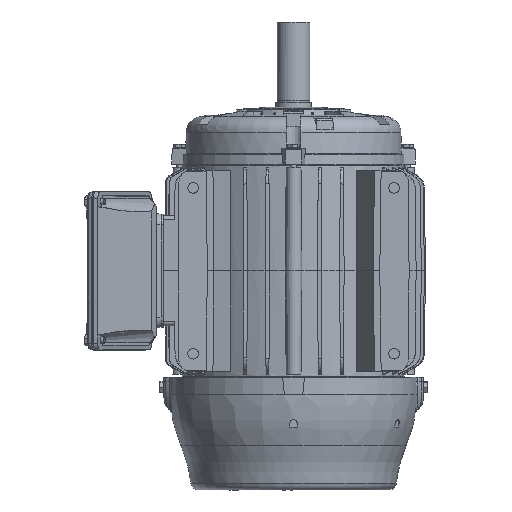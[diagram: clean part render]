
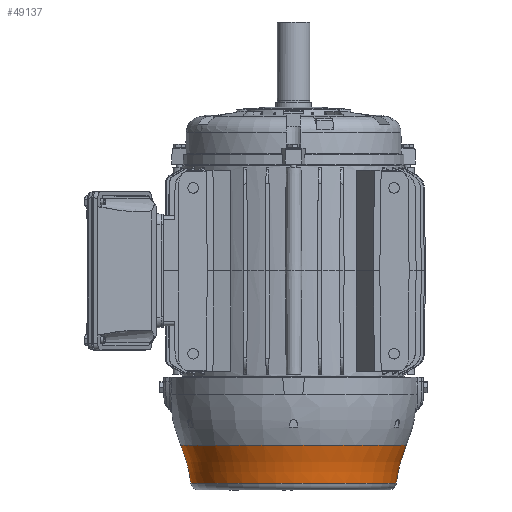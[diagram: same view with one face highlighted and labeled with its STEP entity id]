
A CAD part, front view. The second image highlights one B-rep face of the part: STEP entity #49137.
In plain terms, the highlighted toroidal (fillet/blend) face has major radius 308.616 mm and minor radius 180 mm.
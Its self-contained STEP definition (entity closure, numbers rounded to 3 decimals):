
#395 = CARTESIAN_POINT ( 'NONE',  ( 0., 0., -422.887 ) ) ;
#1150 = ORIENTED_EDGE ( 'NONE', *, *, #8368, .F. ) ;
#2953 = VERTEX_POINT ( 'NONE', #19489 ) ;
#8368 = EDGE_CURVE ( 'NONE', #25487, #25487, #53955, .T. ) ;
#12929 = CARTESIAN_POINT ( 'NONE',  ( 0., 0., -401.205 ) ) ;
#15605 = DIRECTION ( 'NONE',  ( 0., 0., 1. ) ) ;
#18450 = DIRECTION ( 'NONE',  ( 0., 1., 0. ) ) ;
#18921 = DIRECTION ( 'NONE',  ( 0., 1., 0. ) ) ;
#19489 = CARTESIAN_POINT ( 'NONE',  ( 0., 129.927, -401.205 ) ) ;
#19905 = TOROIDAL_SURFACE ( 'NONE', #67168, 308.617, 180. ) ;
#22478 = CIRCLE ( 'NONE', #24079, 129.927 ) ;
#24079 = AXIS2_PLACEMENT_3D ( 'NONE', #12929, #54833, #18921 ) ;
#25138 = EDGE_LOOP ( 'NONE', ( #1150 ) ) ;
#25487 = VERTEX_POINT ( 'NONE', #72219 ) ;
#26819 = AXIS2_PLACEMENT_3D ( 'NONE', #51481, #15605, #57531 ) ;
#36279 = EDGE_LOOP ( 'NONE', ( #48822 ) ) ;
#37668 = FACE_OUTER_BOUND ( 'NONE', #25138, .T. ) ;
#48822 = ORIENTED_EDGE ( 'NONE', *, *, #51688, .T. ) ;
#49137 = ADVANCED_FACE ( 'NONE', ( #67757, #37668 ), #19905, .F. ) ;
#51481 = CARTESIAN_POINT ( 'NONE',  ( 0., 0., -353.599 ) ) ;
#51688 = EDGE_CURVE ( 'NONE', #2953, #2953, #22478, .T. ) ;
#53955 = CIRCLE ( 'NONE', #26819, 142.487 ) ;
#54339 = DIRECTION ( 'NONE',  ( 0., 0., 1. ) ) ;
#54833 = DIRECTION ( 'NONE',  ( 0., 0., 1. ) ) ;
#57531 = DIRECTION ( 'NONE',  ( 0., 1., 0. ) ) ;
#67168 = AXIS2_PLACEMENT_3D ( 'NONE', #395, #54339, #18450 ) ;
#67757 = FACE_OUTER_BOUND ( 'NONE', #36279, .T. ) ;
#72219 = CARTESIAN_POINT ( 'NONE',  ( 0., 142.487, -353.599 ) ) ;
